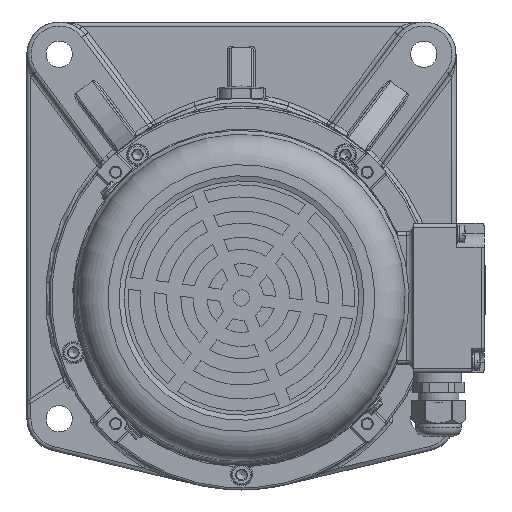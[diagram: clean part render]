
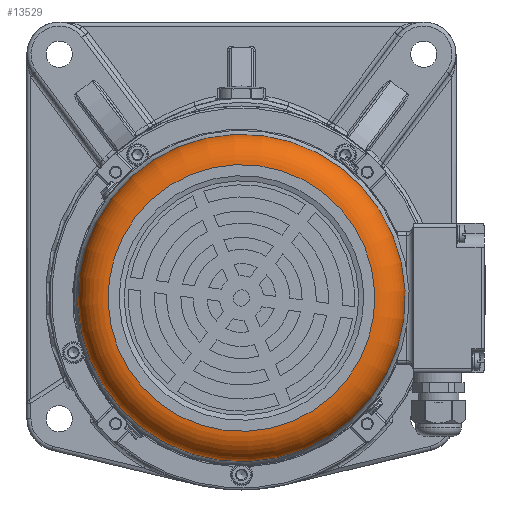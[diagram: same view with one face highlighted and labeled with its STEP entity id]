
A CAD part, left-side view. The second image highlights one B-rep face of the part: STEP entity #13529.
In plain terms, the highlighted toroidal (fillet/blend) face has major radius 66 mm and minor radius 15 mm.
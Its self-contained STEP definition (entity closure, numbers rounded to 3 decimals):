
#1636=FACE_BOUND('',#20194,.T.);
#1637=FACE_BOUND('',#20195,.T.);
#2077=TOROIDAL_SURFACE('',#59332,66.,15.);
#13529=ADVANCED_FACE('',(#1636,#1637),#2077,.T.);
#20194=EDGE_LOOP('',(#35238));
#20195=EDGE_LOOP('',(#35239));
#35238=ORIENTED_EDGE('',*,*,#49411,.F.);
#35239=ORIENTED_EDGE('',*,*,#46909,.T.);
#40261=VERTEX_POINT('',#94094);
#41935=VERTEX_POINT('',#100143);
#46909=EDGE_CURVE('',#40261,#40261,#52458,.T.);
#49411=EDGE_CURVE('',#41935,#41935,#53269,.T.);
#52458=CIRCLE('',#57545,66.);
#53269=CIRCLE('',#59330,81.);
#57545=AXIS2_PLACEMENT_3D('',#94093,#69450,#69451);
#59330=AXIS2_PLACEMENT_3D('',#100142,#74432,#74433);
#59332=AXIS2_PLACEMENT_3D('',#100145,#74436,#74437);
#69450=DIRECTION('',(1.,0.,0.));
#69451=DIRECTION('',(0.,0.609,-0.793));
#74432=DIRECTION('',(1.,0.,0.));
#74433=DIRECTION('',(0.,0.609,-0.793));
#74436=DIRECTION('',(1.,0.,0.));
#74437=DIRECTION('',(0.,0.609,-0.793));
#94093=CARTESIAN_POINT('',(-309.5,0.,0.));
#94094=CARTESIAN_POINT('',(-309.5,40.178,-52.361));
#100142=CARTESIAN_POINT('',(-294.5,0.,0.));
#100143=CARTESIAN_POINT('',(-294.5,49.31,-64.262));
#100145=CARTESIAN_POINT('',(-294.5,0.,0.));
